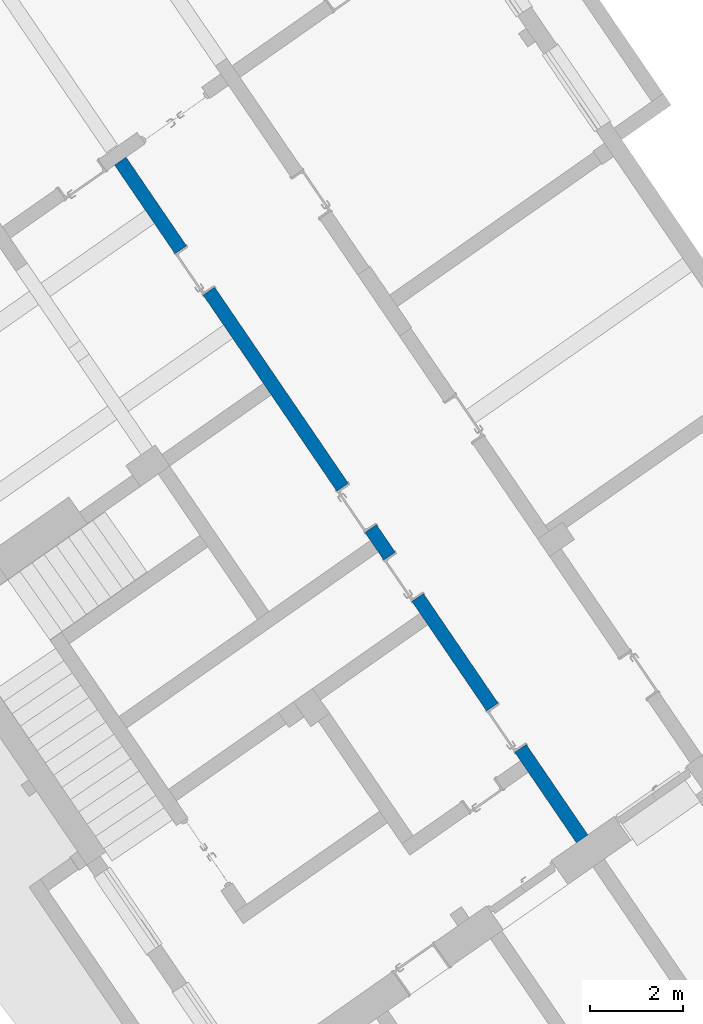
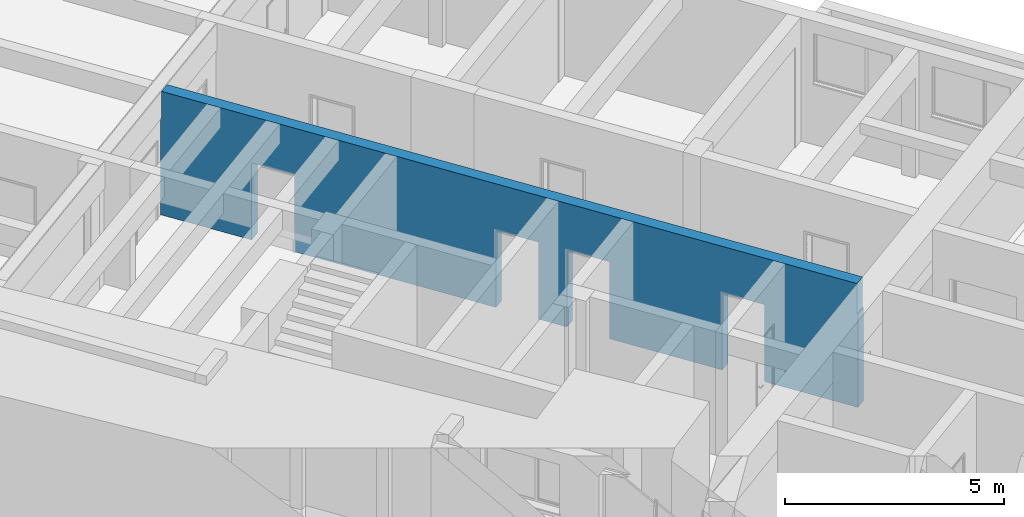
# One storey, part 98 of 112: 1 wall, 4 openings.
"""IFC2X3 building model written with IfcOpenShell, lengths in millimetres."""

from ifc_helpers import new_model, entity, si_unit, converted_unit, derived_unit, direction, frame, frame_2d, origin, place, context, subcontext, project, spatial, rectangle, extrude, faceted_brep, material, layer, layer_set, type_object, element, save


model = new_model("IFC2X3")

# Units and contexts
model_context = context("Model", 3, precision=0.01, world=origin(), true_north=direction((6.123031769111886e-17, 1.0)))
body_context = subcontext(model_context, "Body", "Model", "MODEL_VIEW")
ifc_project = project(units=[si_unit("LENGTHUNIT", "METRE", prefix="MILLI"), si_unit("AREAUNIT", "SQUARE_METRE"), si_unit("VOLUMEUNIT", "CUBIC_METRE"), converted_unit("PLANEANGLEUNIT", "DEGREE", entity("IfcRatioMeasure", 0.017453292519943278), si_unit("PLANEANGLEUNIT", "RADIAN"), dimensions=[0, 0, 0, 0, 0, 0, 0]), si_unit("MASSUNIT", "GRAM", prefix="KILO"), derived_unit("MASSDENSITYUNIT", [(si_unit("MASSUNIT", "GRAM", prefix="KILO"), 1), (si_unit("LENGTHUNIT", "METRE"), -3)]), derived_unit("MOMENTOFINERTIAUNIT", [(si_unit("LENGTHUNIT", "METRE"), 4)]), si_unit("TIMEUNIT", "SECOND"), si_unit("FREQUENCYUNIT", "HERTZ"), si_unit("THERMODYNAMICTEMPERATUREUNIT", "DEGREE_CELSIUS"), derived_unit("THERMALTRANSMITTANCEUNIT", [(si_unit("MASSUNIT", "GRAM", prefix="KILO"), 1), (si_unit("THERMODYNAMICTEMPERATUREUNIT", "KELVIN"), -1), (si_unit("TIMEUNIT", "SECOND"), -3)]), derived_unit("THERMALCONDUCTANCEUNIT", [(si_unit("MASSUNIT", "GRAM", prefix="KILO"), 1), (si_unit("LENGTHUNIT", "METRE"), 1), (si_unit("THERMODYNAMICTEMPERATUREUNIT", "KELVIN"), -1), (si_unit("TIMEUNIT", "SECOND"), -3)]), derived_unit("VOLUMETRICFLOWRATEUNIT", [(si_unit("LENGTHUNIT", "METRE"), 3), (si_unit("TIMEUNIT", "SECOND"), -1)]), derived_unit("MASSFLOWRATEUNIT", [(si_unit("MASSUNIT", "GRAM", prefix="KILO"), 1), (si_unit("TIMEUNIT", "SECOND"), -1)]), derived_unit("ROTATIONALFREQUENCYUNIT", [(si_unit("TIMEUNIT", "SECOND"), -1)]), si_unit("ELECTRICCURRENTUNIT", "AMPERE"), si_unit("ELECTRICVOLTAGEUNIT", "VOLT"), si_unit("POWERUNIT", "WATT"), converted_unit("FORCEUNIT", "KIP", entity("IfcRatioMeasure", 2.088543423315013e-05), si_unit("FORCEUNIT", "NEWTON"), dimensions=[1, 1, -2, 0, 0, 0, 0]), si_unit("ILLUMINANCEUNIT", "LUX"), si_unit("LUMINOUSFLUXUNIT", "LUMEN"), si_unit("LUMINOUSINTENSITYUNIT", "CANDELA"), derived_unit("USERDEFINED", [(si_unit("MASSUNIT", "GRAM", prefix="KILO"), -1), (si_unit("LENGTHUNIT", "METRE"), -2), (si_unit("TIMEUNIT", "SECOND"), 3), (si_unit("LUMINOUSFLUXUNIT", "LUMEN"), 1)]), derived_unit("USERDEFINED", [(si_unit("MASSUNIT", "GRAM", prefix="KILO"), 1), (si_unit("LENGTHUNIT", "METRE"), 3), (si_unit("TIMEUNIT", "SECOND"), -3), (si_unit("ELECTRICCURRENTUNIT", "AMPERE"), -2)]), derived_unit("USERDEFINED", [(si_unit("LENGTHUNIT", "METRE"), 2), (si_unit("TIMEUNIT", "SECOND"), -2)]), derived_unit("SOUNDPOWERUNIT", [(si_unit("MASSUNIT", "GRAM", prefix="KILO"), 1), (si_unit("LENGTHUNIT", "METRE"), 2), (si_unit("TIMEUNIT", "SECOND"), -3)]), derived_unit("SOUNDPRESSUREUNIT", [(si_unit("MASSUNIT", "GRAM", prefix="KILO"), 1), (si_unit("LENGTHUNIT", "METRE"), -1), (si_unit("TIMEUNIT", "SECOND"), -2)]), derived_unit("LINEARVELOCITYUNIT", [(si_unit("LENGTHUNIT", "METRE"), 1), (si_unit("TIMEUNIT", "SECOND"), -1)]), si_unit("PRESSUREUNIT", "PASCAL"), derived_unit("USERDEFINED", [(si_unit("LENGTHUNIT", "METRE"), -2), (si_unit("MASSUNIT", "GRAM", prefix="KILO"), 1), (si_unit("TIMEUNIT", "SECOND"), -2)]), derived_unit("LINEARFORCEUNIT", [(si_unit("MASSUNIT", "GRAM", prefix="KILO"), 1), (si_unit("LENGTHUNIT", "METRE"), 1), (si_unit("TIMEUNIT", "SECOND"), -2), (si_unit("LENGTHUNIT", "METRE"), -1)]), derived_unit("PLANARFORCEUNIT", [(si_unit("MASSUNIT", "GRAM", prefix="KILO"), 1), (si_unit("LENGTHUNIT", "METRE"), 1), (si_unit("TIMEUNIT", "SECOND"), -2), (si_unit("LENGTHUNIT", "METRE"), -2)]), derived_unit("SPECIFICHEATCAPACITYUNIT", [(si_unit("LENGTHUNIT", "METRE"), 2), (si_unit("TIMEUNIT", "SECOND"), -2), (si_unit("THERMODYNAMICTEMPERATUREUNIT", "KELVIN"), -1)]), derived_unit("VAPORPERMEABILITYUNIT", [(si_unit("TIMEUNIT", "SECOND"), 1), (si_unit("LENGTHUNIT", "METRE"), -1)]), derived_unit("DYNAMICVISCOSITYUNIT", [(si_unit("MASSUNIT", "GRAM", prefix="KILO"), 1), (si_unit("LENGTHUNIT", "METRE"), -1), (si_unit("TIMEUNIT", "SECOND"), -1)]), derived_unit("THERMALEXPANSIONCOEFFICIENTUNIT", [(si_unit("THERMODYNAMICTEMPERATUREUNIT", "KELVIN"), -1)])], contexts=[model_context])

# Site, building, storey
site_placement = place(None, frame((0.0, 0.0, 0.0), z_axis=(0.0, 0.0, 1.0), x_axis=(0.8191520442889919, 0.5735764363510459, 0.0)))
site = spatial("IfcSite", under=ifc_project, at=site_placement, Name="Default", CompositionType="ELEMENT")
building_placement = place(site_placement, origin())
building = spatial("IfcBuilding", under=site, at=building_placement, CompositionType="ELEMENT")
storey_placement = place(building_placement, frame((0.0, 0.0, -3600.0)))
storey = spatial("IfcBuildingStorey", under=building, at=storey_placement, Name="0.UG -3.60", CompositionType="ELEMENT", Elevation=-3600.0000000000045)

# Wall, openings
ifc_material = material(Name="Analytical Wall Surface_CJC")
ifc_layer = layer(ifc_material, 300.0)
ifc_layer_set = layer_set([ifc_layer], Name="Basic Wall:Wand_Innen_30")
wall_type = type_object("IfcWallType", Name="Basic Wall:Wand_Innen_30", PredefinedType="STANDARD", material=ifc_layer_set)
wall_placement = place(storey_placement, frame((-214098.35294108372, 103849.4494762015, 0.0), z_axis=(0.0, 0.0, 1.0), x_axis=(0.012729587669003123, 0.9999189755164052, 0.0)))
wall = element("IfcWall", 1, at=wall_placement, inside=storey, type_object=wall_type, Name="Basic Wall:Wand_Innen_30", ObjectType="Basic Wall:Wand_Innen_30", context=body_context, shape_type="Brep", body=[
    faceted_brep([(17675.251004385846, -150.0, 3450.0), (23.82080636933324, -150.0, 3450.0), (23.82080636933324, -150.0, 2600.0), (3.819185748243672, -150.0, 2600.0), (3.819185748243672, -150.0, 0.0), (2363.711434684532, -150.0, 0.0), (2363.7114346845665, -150.0, 2150.0), (3443.711434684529, -150.0, 2150.0), (3443.711434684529, -150.0, 0.0), (6303.711434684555, -150.0, 0.0), (6303.711434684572, -150.0, 2150.0), (7383.711434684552, -150.0, 2150.0), (7383.711434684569, -150.0, 0.0), (8103.711434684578, -150.0, 0.0), (8103.711434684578, -150.0, 2150.0), (9183.711434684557, -150.0, 2150.0), (9183.711434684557, -150.0, 0.0), (14303.711434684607, -150.0, 0.0), (14303.711434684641, -150.0, 2150.0), (15383.711434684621, -150.0, 2150.0), (15383.711434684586, -150.0, 0.0), (17700.253030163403, -150.0, 0.0), (17700.253030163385, -150.0, 2700.0), (17675.251004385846, -150.0, 2700.0), (20.001620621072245, 150.0, 3450.0), (1845.1495022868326, 150.0, 3450.0), (2145.173811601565, 150.0, 3450.0), (5695.4614718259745, 150.0, 3450.0), (5995.485781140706, 150.0, 3450.0), (7595.615430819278, 150.0, 3450.0), (7895.639740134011, 150.0, 3450.0), (11695.947658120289, 150.0, 3450.0), (11995.971967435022, 150.0, 3450.0), (13171.067178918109, 150.0, 3450.0), (13521.095539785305, 150.0, 3450.0), (14671.188725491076, 150.0, 3450.0), (15021.217086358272, 150.0, 3450.0), (16171.310272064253, 150.0, 3450.0), (16521.33863293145, 150.0, 3450.0), (17671.431818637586, 150.0, 3450.0), (17671.431818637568, 150.0, 2700.0), (17696.433844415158, 150.0, 2700.0), (17696.433844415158, 150.0, 0.0), (15383.711434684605, 150.0, 0.0), (15383.71143468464, 150.0, 2150.0), (14303.711434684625, 150.0, 2150.0), (14303.71143468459, 150.0, 0.0), (11995.971967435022, 150.0, 0.0), (11695.947658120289, 150.0, 0.0), (9183.711434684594, 150.0, 0.0), (9183.71143468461, 150.0, 2150.0), (8103.711434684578, 150.0, 2150.0), (8103.711434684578, 150.0, 0.0), (7895.639740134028, 150.0, 0.0), (7595.615430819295, 150.0, 0.0), (7383.711434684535, 150.0, 0.0), (7383.711434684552, 150.0, 2150.0), (6303.711434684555, 150.0, 2150.0), (6303.711434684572, 150.0, 0.0), (5995.485781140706, 150.0, 0.0), (5695.4614718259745, 150.0, 0.0), (3443.711434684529, 150.0, 0.0), (3443.7114346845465, 150.0, 2150.0), (2363.711434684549, 150.0, 2150.0), (2363.711434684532, 150.0, 0.0), (2145.173811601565, 150.0, 0.0), (1845.1495022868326, 150.0, 0.0), (0.0, 150.0, 0.0), (0.0, 150.0, 2600.0), (20.001620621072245, 150.0, 2600.0)], [[[0, 1, 2, 3, 4, 5, 6, 7, 8, 9, 10, 11, 12, 13, 14, 15, 16, 17, 18, 19, 20, 21, 22, 23]], [[24, 25, 26, 27, 28, 29, 30, 31, 32, 33, 34, 35, 36, 37, 38, 39, 40, 41, 42, 43, 44, 45, 46, 47, 48, 49, 50, 51, 52, 53, 54, 55, 56, 57, 58, 59, 60, 61, 62, 63, 64, 65, 66, 67, 68, 69]], [[4, 67, 66, 65, 64, 5]], [[1, 0, 39, 38, 37, 36, 35, 34, 33, 32, 31, 30, 29, 28, 27, 26, 25, 24]], [[19, 44, 43, 20]], [[44, 19, 18, 45]], [[45, 18, 17, 46]], [[51, 14, 13, 52]], [[14, 51, 50, 15]], [[15, 50, 49, 16]], [[11, 56, 55, 12]], [[56, 11, 10, 57]], [[57, 10, 9, 58]], [[7, 62, 61, 8]], [[62, 7, 6, 63]], [[63, 6, 5, 64]], [[23, 22, 41, 40]], [[21, 42, 41, 22]], [[39, 0, 23, 40]], [[69, 68, 3, 2]], [[4, 3, 68, 67]], [[2, 1, 24, 69]], [[58, 9, 8, 61, 60, 59]], [[52, 13, 12, 55, 54, 53]], [[46, 17, 16, 49, 48, 47]], [[42, 21, 20, 43]]]),
])
opening_1_placement = place(wall_placement, frame((14303.711434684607, -150.0, 0.0)))
element("IfcOpeningElement", 2, at=opening_1_placement, cuts=wall, Name="Doors_IntSgl:100x210:1", ObjectType="Opening", context=body_context, shape_type="SweptSolid", body=[
    extrude(rectangle(XDim=2150.000000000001, YDim=1079.9999999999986, at=frame_2d((1075.0000000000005, 539.9999999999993), x_axis=(1.0, 0.0))), frame((0.0, 0.0, 0.0), z_axis=(0.0, 1.0, 0.0), x_axis=(0.0, 0.0, 1.0)), (0.0, 0.0, 1.0), 300.0),
])
opening_2_placement = place(wall_placement, frame((8103.711434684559, -150.0, 0.0)))
element("IfcOpeningElement", 3, at=opening_2_placement, cuts=wall, Name="Doors_IntSgl:100x210:1", ObjectType="Opening", context=body_context, shape_type="SweptSolid", body=[
    extrude(rectangle(XDim=2150.000000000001, YDim=1079.9999999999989, at=frame_2d((1075.0000000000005, 539.9999999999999), x_axis=(1.0, 0.0))), frame((0.0, 0.0, 0.0), z_axis=(0.0, 1.0, 0.0), x_axis=(0.0, 0.0, 1.0)), (0.0, 0.0, 1.0), 300.0),
])
opening_3_placement = place(wall_placement, frame((6303.711434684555, -150.0, 0.0)))
element("IfcOpeningElement", 4, at=opening_3_placement, cuts=wall, Name="Doors_IntSgl:100x210:1", ObjectType="Opening", context=body_context, shape_type="SweptSolid", body=[
    extrude(rectangle(XDim=2150.000000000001, YDim=1079.9999999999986, at=frame_2d((1075.0000000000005, 539.9999999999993), x_axis=(1.0, 0.0))), frame((0.0, 0.0, 0.0), z_axis=(0.0, 1.0, 0.0), x_axis=(0.0, 0.0, 1.0)), (0.0, 0.0, 1.0), 300.0),
])
opening_4_placement = place(wall_placement, frame((2363.711434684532, -150.0, 0.0)))
element("IfcOpeningElement", 5, at=opening_4_placement, cuts=wall, Name="Doors_IntSgl:100x210:1", ObjectType="Opening", context=body_context, shape_type="SweptSolid", body=[
    extrude(rectangle(XDim=2150.000000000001, YDim=1079.9999999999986, at=frame_2d((1075.0000000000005, 539.9999999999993), x_axis=(1.0, 0.0))), frame((0.0, 0.0, 0.0), z_axis=(0.0, 1.0, 0.0), x_axis=(0.0, 0.0, 1.0)), (0.0, 0.0, 1.0), 300.0),
])

save(model, "model.ifc")
